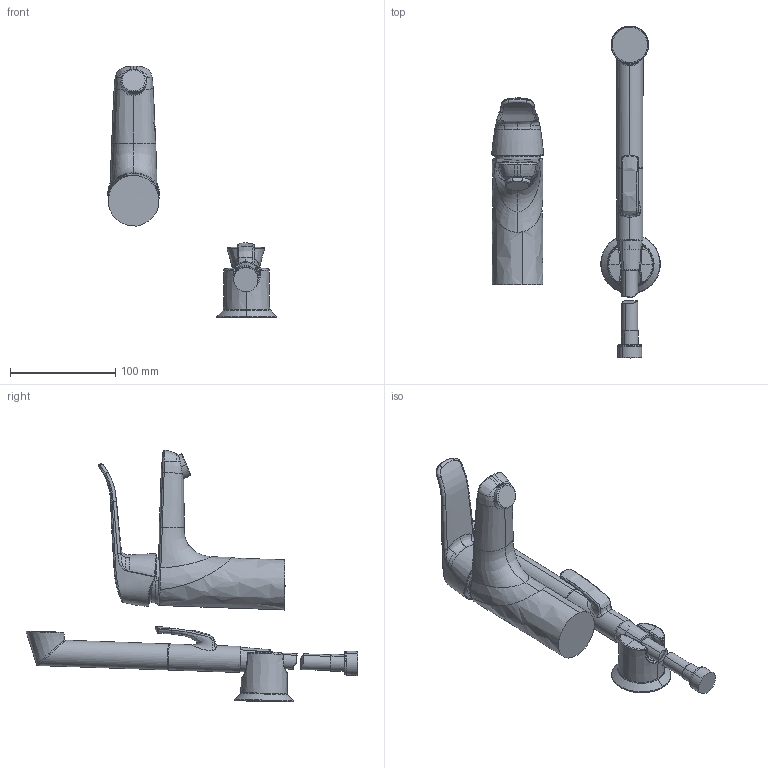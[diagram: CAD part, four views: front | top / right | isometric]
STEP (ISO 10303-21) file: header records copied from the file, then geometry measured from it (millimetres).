
FILE_DESCRIPTION (( 'STEP AP203' ), '1' );
FILE_NAME ('5701F(2018)+46282206.STEP', '2019-04-05T10:51:08', ( '' ), ( '' ), 'SwSTEP 2.0', 'SolidWorks 2016', '' );
FILE_SCHEMA (( 'CONFIG_CONTROL_DESIGN' ));
Length unit declared in the file: millimetre
Products named in the file (1): 5701F(2018)+46282206
Bounding box: 160.42 x 315.78 x 239.37 mm (x, y, z)
Volume: 605009.3 mm3; surface area: 93950.8 mm2
Topology: 9 solids, 9 shells, 242 faces, 598 edges, 379 vertices
Faces by surface type: bspline 142, plane 29, cylinder 27, torus 22, cone 14, sphere 8
Entity records: 45364 total; most frequent: CARTESIAN_POINT 40766, ORIENTED_EDGE 1196, EDGE_CURVE 598, DIRECTION 547, VERTEX_POINT 379, B_SPLINE_CURVE_WITH_KNOTS 378, AXIS2_PLACEMENT_3D 248, EDGE_LOOP 247
